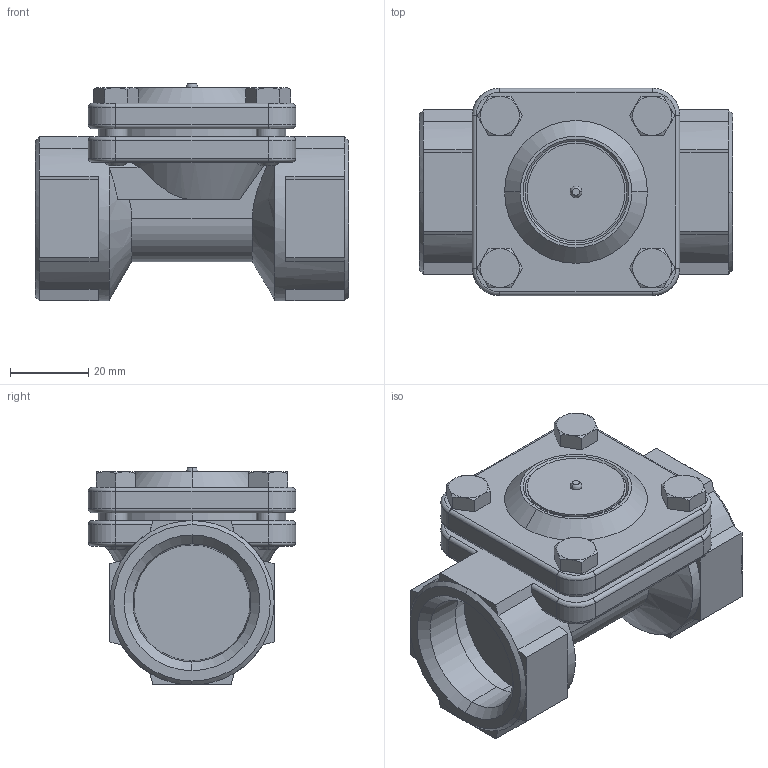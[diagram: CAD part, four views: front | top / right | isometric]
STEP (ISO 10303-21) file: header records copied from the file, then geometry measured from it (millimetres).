
FILE_DESCRIPTION( (''), '2;1');
FILE_NAME ('PC1276.4340.25A_12976.stp','2023-07-04T16:29:08',(''),(''),'spGate 19.8.4 (****-****-****-****)','','');
FILE_SCHEMA (('AUTOMOTIVE_DESIGN'));
Length unit declared in the file: millimetre
Bounding box: 80 x 53 x 55.7 mm (x, y, z)
Volume: 100838.1 mm3; surface area: 24210.9 mm2
Topology: 1 solids, 1 shells, 232 faces, 540 edges, 326 vertices
Faces by surface type: plane 111, bspline 72, cylinder 47, sphere 2
Entity records: 11883 total; most frequent: CARTESIAN_POINT 2494, ORIENTED_EDGE 1080, DIRECTION 954, COLOUR_RGB 773, PRESENTATION_STYLE_ASSIGNMENT 773, STYLED_ITEM 773, EDGE_CURVE 540, DRAUGHTING_PRE_DEFINED_CURVE_FONT 540
